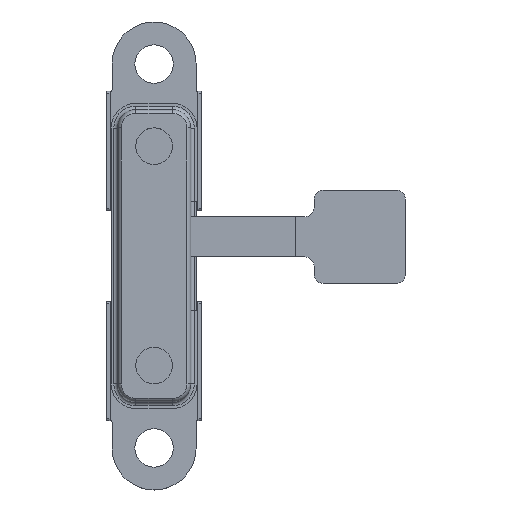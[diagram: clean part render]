
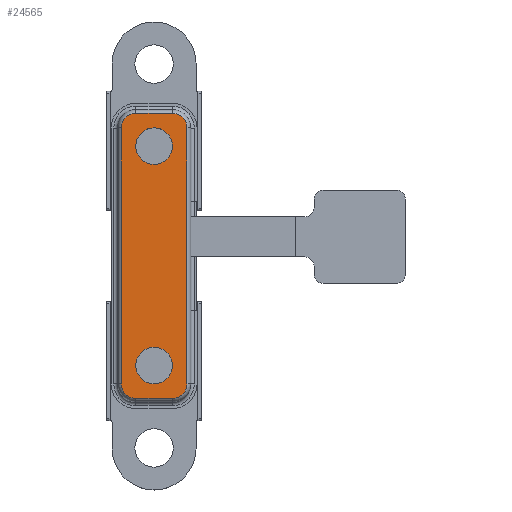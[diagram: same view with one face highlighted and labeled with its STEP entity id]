
A CAD part, top view. The second image highlights one B-rep face of the part: STEP entity #24565.
In plain terms, the highlighted planar face has unit normal (0, 0, 1).
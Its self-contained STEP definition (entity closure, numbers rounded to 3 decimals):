
#24190=CARTESIAN_POINT('',(1.,-7.,0.85));
#24191=DIRECTION('',(0.,0.,-1.));
#24192=DIRECTION('',(1.,0.,0.));
#24193=AXIS2_PLACEMENT_3D('',#24190,#24191,#24192);
#24198=DIRECTION('',(-1.,0.,0.));
#24199=VECTOR('',#24198,2.);
#24200=CARTESIAN_POINT('',(1.,-7.8,0.85));
#24201=LINE('',#24200,#24199);
#24205=CARTESIAN_POINT('',(-1.,-7.,0.85));
#24206=DIRECTION('',(0.,0.,-1.));
#24207=DIRECTION('',(0.,-1.,0.));
#24208=AXIS2_PLACEMENT_3D('',#24205,#24206,#24207);
#24213=DIRECTION('',(0.,1.,0.));
#24214=VECTOR('',#24213,14.);
#24215=CARTESIAN_POINT('',(-1.8,-7.,0.85));
#24216=LINE('',#24215,#24214);
#24220=CARTESIAN_POINT('',(-1.,7.,0.85));
#24221=DIRECTION('',(0.,0.,-1.));
#24222=DIRECTION('',(-1.,0.,0.));
#24223=AXIS2_PLACEMENT_3D('',#24220,#24221,#24222);
#24228=DIRECTION('',(1.,0.,0.));
#24229=VECTOR('',#24228,2.);
#24230=CARTESIAN_POINT('',(-1.,7.8,0.85));
#24231=LINE('',#24230,#24229);
#24235=CARTESIAN_POINT('',(1.,7.,0.85));
#24236=DIRECTION('',(0.,0.,-1.));
#24237=DIRECTION('',(0.,1.,0.));
#24238=AXIS2_PLACEMENT_3D('',#24235,#24236,#24237);
#24243=DIRECTION('',(0.,-1.,0.));
#24244=VECTOR('',#24243,14.);
#24245=CARTESIAN_POINT('',(1.8,7.,0.85));
#24246=LINE('',#24245,#24244);
#24250=CARTESIAN_POINT('',(0.,6.,0.85));
#24251=DIRECTION('',(0.,0.,1.));
#24252=DIRECTION('',(0.,1.,0.));
#24253=AXIS2_PLACEMENT_3D('',#24250,#24251,#24252);
#24258=CARTESIAN_POINT('',(0.,6.,0.85));
#24259=DIRECTION('',(0.,0.,1.));
#24260=DIRECTION('',(-1.,0.,0.));
#24261=AXIS2_PLACEMENT_3D('',#24258,#24259,#24260);
#24266=CARTESIAN_POINT('',(0.,6.,0.85));
#24267=DIRECTION('',(0.,0.,1.));
#24268=DIRECTION('',(0.,-1.,0.));
#24269=AXIS2_PLACEMENT_3D('',#24266,#24267,#24268);
#24274=CARTESIAN_POINT('',(0.,6.,0.85));
#24275=DIRECTION('',(0.,0.,1.));
#24276=DIRECTION('',(1.,0.,0.));
#24277=AXIS2_PLACEMENT_3D('',#24274,#24275,#24276);
#24282=CARTESIAN_POINT('',(0.,-6.,0.85));
#24283=DIRECTION('',(0.,0.,1.));
#24284=DIRECTION('',(-1.,0.,0.));
#24285=AXIS2_PLACEMENT_3D('',#24282,#24283,#24284);
#24290=CARTESIAN_POINT('',(0.,-6.,0.85));
#24291=DIRECTION('',(0.,0.,1.));
#24292=DIRECTION('',(1.,0.,0.));
#24293=AXIS2_PLACEMENT_3D('',#24290,#24291,#24292);
#24354=CARTESIAN_POINT('',(1.,-6.,0.85));
#24355=VERTEX_POINT('',#24354);
#24356=CARTESIAN_POINT('',(-1.,-6.,0.85));
#24357=VERTEX_POINT('',#24356);
#24358=CARTESIAN_POINT('',(1.8,-7.,0.85));
#24359=CARTESIAN_POINT('',(1.,-7.8,0.85));
#24360=VERTEX_POINT('',#24358);
#24361=VERTEX_POINT('',#24359);
#24362=CARTESIAN_POINT('',(-1.,-7.8,0.85));
#24363=VERTEX_POINT('',#24362);
#24364=CARTESIAN_POINT('',(-1.8,-7.,0.85));
#24365=VERTEX_POINT('',#24364);
#24366=CARTESIAN_POINT('',(-1.8,7.,0.85));
#24367=VERTEX_POINT('',#24366);
#24368=CARTESIAN_POINT('',(-1.,7.8,0.85));
#24369=VERTEX_POINT('',#24368);
#24370=CARTESIAN_POINT('',(1.,7.8,0.85));
#24371=VERTEX_POINT('',#24370);
#24372=CARTESIAN_POINT('',(1.8,7.,0.85));
#24373=VERTEX_POINT('',#24372);
#24374=CARTESIAN_POINT('',(-1.,6.,0.85));
#24375=CARTESIAN_POINT('',(0.,5.,0.85));
#24376=VERTEX_POINT('',#24374);
#24377=VERTEX_POINT('',#24375);
#24378=CARTESIAN_POINT('',(0.,7.,0.85));
#24379=VERTEX_POINT('',#24378);
#24380=CARTESIAN_POINT('',(1.,6.,0.85));
#24381=VERTEX_POINT('',#24380);
#24534=CARTESIAN_POINT('',(0.,0.,0.85));
#24535=DIRECTION('',(0.,0.,1.));
#24536=DIRECTION('',(1.,0.,0.));
#24537=AXIS2_PLACEMENT_3D('',#24534,#24535,#24536);
#24538=PLANE('',#24537);
#24539=ORIENTED_EDGE('',*,*,#24430,.T.);
#24540=ORIENTED_EDGE('',*,*,#24445,.T.);
#24541=ORIENTED_EDGE('',*,*,#24459,.T.);
#24542=ORIENTED_EDGE('',*,*,#24473,.T.);
#24543=ORIENTED_EDGE('',*,*,#24487,.T.);
#24544=ORIENTED_EDGE('',*,*,#24501,.T.);
#24545=ORIENTED_EDGE('',*,*,#24515,.T.);
#24546=ORIENTED_EDGE('',*,*,#24528,.T.);
#24547=EDGE_LOOP('',(#24539,#24540,#24541,#24542,#24543,#24544,#24545,#24546));
#24548=FACE_OUTER_BOUND('',#24547,.F.);
#24550=ORIENTED_EDGE('',*,*,#24549,.T.);
#24552=ORIENTED_EDGE('',*,*,#24551,.T.);
#24554=ORIENTED_EDGE('',*,*,#24553,.T.);
#24556=ORIENTED_EDGE('',*,*,#24555,.T.);
#24557=EDGE_LOOP('',(#24550,#24552,#24554,#24556));
#24558=FACE_BOUND('',#24557,.F.);
#24560=ORIENTED_EDGE('',*,*,#24559,.T.);
#24562=ORIENTED_EDGE('',*,*,#24561,.T.);
#24563=EDGE_LOOP('',(#24560,#24562));
#24564=FACE_BOUND('',#24563,.F.);
#24194=CIRCLE('',#24193,0.8);
#24209=CIRCLE('',#24208,0.8);
#24224=CIRCLE('',#24223,0.8);
#24239=CIRCLE('',#24238,0.8);
#24254=CIRCLE('',#24253,1.);
#24262=CIRCLE('',#24261,1.);
#24270=CIRCLE('',#24269,1.);
#24278=CIRCLE('',#24277,1.);
#24286=CIRCLE('',#24285,1.);
#24294=CIRCLE('',#24293,1.);
#24430=EDGE_CURVE('',#24360,#24361,#24194,.T.);
#24445=EDGE_CURVE('',#24361,#24363,#24201,.T.);
#24459=EDGE_CURVE('',#24363,#24365,#24209,.T.);
#24473=EDGE_CURVE('',#24365,#24367,#24216,.T.);
#24487=EDGE_CURVE('',#24367,#24369,#24224,.T.);
#24501=EDGE_CURVE('',#24369,#24371,#24231,.T.);
#24515=EDGE_CURVE('',#24371,#24373,#24239,.T.);
#24528=EDGE_CURVE('',#24373,#24360,#24246,.T.);
#24549=EDGE_CURVE('',#24379,#24376,#24254,.T.);
#24551=EDGE_CURVE('',#24376,#24377,#24262,.T.);
#24553=EDGE_CURVE('',#24377,#24381,#24270,.T.);
#24555=EDGE_CURVE('',#24381,#24379,#24278,.T.);
#24559=EDGE_CURVE('',#24357,#24355,#24286,.T.);
#24561=EDGE_CURVE('',#24355,#24357,#24294,.T.);
#24565=ADVANCED_FACE('',(#24548,#24558,#24564),#24538,.T.);
